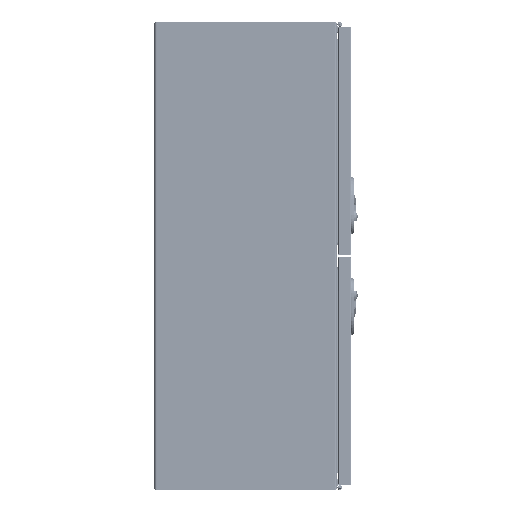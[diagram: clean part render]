
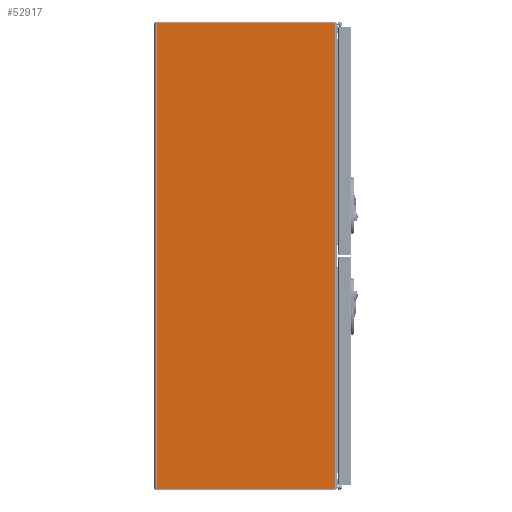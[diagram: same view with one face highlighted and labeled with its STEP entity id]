
A CAD part, front view. The second image highlights one B-rep face of the part: STEP entity #52917.
In plain terms, the highlighted planar face has unit normal (0, -1, 0).
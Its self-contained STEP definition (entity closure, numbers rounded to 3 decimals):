
#2229 = VECTOR ( 'NONE', #83750, 1000. ) ;
#3413 = VERTEX_POINT ( 'NONE', #91252 ) ;
#5574 = CARTESIAN_POINT ( 'NONE',  ( 228., -250., 597. ) ) ;
#6051 = LINE ( 'NONE', #23519, #2229 ) ;
#6109 = CARTESIAN_POINT ( 'NONE',  ( 218., -250., -597. ) ) ;
#6318 = CARTESIAN_POINT ( 'NONE',  ( 213., -250., 597. ) ) ;
#8059 = ORIENTED_EDGE ( 'NONE', *, *, #79141, .T. ) ;
#8681 = VERTEX_POINT ( 'NONE', #26538 ) ;
#8851 = B_SPLINE_CURVE_WITH_KNOTS ( 'NONE', 1,
 ( #101096, #102173 ),
 .UNSPECIFIED., .F., .F.,
 ( 2, 2 ),
 ( 0.688, 1. ),
 .UNSPECIFIED. ) ;
#9587 = ORIENTED_EDGE ( 'NONE', *, *, #24232, .F. ) ;
#10559 = DIRECTION ( 'NONE',  ( 0., 0., 1. ) ) ;
#11873 = VECTOR ( 'NONE', #10559, 1000. ) ;
#12212 = VECTOR ( 'NONE', #60088, 1000. ) ;
#13423 = EDGE_CURVE ( 'NONE', #48728, #54619, #29609, .T. ) ;
#18461 = VECTOR ( 'NONE', #96694, 1000. ) ;
#19052 = CARTESIAN_POINT ( 'NONE',  ( 218., -250., 598.5 ) ) ;
#19904 = VERTEX_POINT ( 'NONE', #66241 ) ;
#23266 = CARTESIAN_POINT ( 'NONE',  ( -228., -250., -597. ) ) ;
#23416 = ORIENTED_EDGE ( 'NONE', *, *, #52918, .F. ) ;
#23519 = CARTESIAN_POINT ( 'NONE',  ( -228., -250., -600. ) ) ;
#23619 = DIRECTION ( 'NONE',  ( 1., 0., 0. ) ) ;
#24165 = EDGE_CURVE ( 'NONE', #73430, #3413, #68060, .T. ) ;
#24232 = EDGE_CURVE ( 'NONE', #105945, #8681, #26938, .T. ) ;
#26229 = AXIS2_PLACEMENT_3D ( 'NONE', #96648, #27446, #87689 ) ;
#26538 = CARTESIAN_POINT ( 'NONE',  ( 218., -250., 597. ) ) ;
#26938 = LINE ( 'NONE', #19052, #18461 ) ;
#27446 = DIRECTION ( 'NONE',  ( 0., -1., 0. ) ) ;
#29609 = LINE ( 'NONE', #63943, #81278 ) ;
#33376 = VERTEX_POINT ( 'NONE', #5574 ) ;
#34796 = LINE ( 'NONE', #43777, #109789 ) ;
#36434 = VERTEX_POINT ( 'NONE', #72622 ) ;
#40188 = CARTESIAN_POINT ( 'NONE',  ( 228., -250., -600. ) ) ;
#42114 = DIRECTION ( 'NONE',  ( 1., 0., 0. ) ) ;
#42296 = EDGE_CURVE ( 'NONE', #91383, #104007, #34796, .T. ) ;
#42638 = EDGE_CURVE ( 'NONE', #103456, #105945, #8851, .T. ) ;
#42895 = EDGE_CURVE ( 'NONE', #36434, #48728, #43371, .T. ) ;
#43371 = LINE ( 'NONE', #86185, #108088 ) ;
#43490 = ORIENTED_EDGE ( 'NONE', *, *, #86320, .F. ) ;
#43777 = CARTESIAN_POINT ( 'NONE',  ( 231., -250., 597. ) ) ;
#44512 = CARTESIAN_POINT ( 'NONE',  ( 231., -250., 597. ) ) ;
#44693 = CARTESIAN_POINT ( 'NONE',  ( 218., -250., 598.5 ) ) ;
#46196 = DIRECTION ( 'NONE',  ( 1., 0., 0. ) ) ;
#47800 = ORIENTED_EDGE ( 'NONE', *, *, #24165, .T. ) ;
#48025 = CARTESIAN_POINT ( 'NONE',  ( 213., -250., -598.5 ) ) ;
#48728 = VERTEX_POINT ( 'NONE', #6109 ) ;
#49524 = VECTOR ( 'NONE', #46196, 1000. ) ;
#49783 = LINE ( 'NONE', #40188, #71178 ) ;
#49874 = CARTESIAN_POINT ( 'NONE',  ( 228., -250., -597. ) ) ;
#50072 = CARTESIAN_POINT ( 'NONE',  ( -234., -250., -597. ) ) ;
#51369 = EDGE_CURVE ( 'NONE', #54619, #33376, #49783, .T. ) ;
#52402 = DIRECTION ( 'NONE',  ( 0., 0., 1. ) ) ;
#52917 = ADVANCED_FACE ( 'NONE', ( #62916 ), #62365, .T. ) ;
#52918 = EDGE_CURVE ( 'NONE', #19904, #3413, #61796, .T. ) ;
#54619 = VERTEX_POINT ( 'NONE', #49874 ) ;
#56494 = CARTESIAN_POINT ( 'NONE',  ( -228., -250., 597. ) ) ;
#60088 = DIRECTION ( 'NONE',  ( 0., 0., -1. ) ) ;
#61157 = CARTESIAN_POINT ( 'NONE',  ( 213., -250., 598.5 ) ) ;
#61796 = LINE ( 'NONE', #96070, #11873 ) ;
#62365 = PLANE ( 'NONE',  #26229 ) ;
#62916 = FACE_OUTER_BOUND ( 'NONE', #96919, .T. ) ;
#63018 = ORIENTED_EDGE ( 'NONE', *, *, #51369, .T. ) ;
#63943 = CARTESIAN_POINT ( 'NONE',  ( -234., -250., -597. ) ) ;
#66241 = CARTESIAN_POINT ( 'NONE',  ( 213., -250., -598.5 ) ) ;
#68060 = LINE ( 'NONE', #50072, #101201 ) ;
#71178 = VECTOR ( 'NONE', #100940, 1000. ) ;
#72622 = CARTESIAN_POINT ( 'NONE',  ( 218., -250., -598.5 ) ) ;
#73430 = VERTEX_POINT ( 'NONE', #23266 ) ;
#74456 = ORIENTED_EDGE ( 'NONE', *, *, #91402, .F. ) ;
#77512 = LINE ( 'NONE', #87079, #12212 ) ;
#78856 = LINE ( 'NONE', #44512, #49524 ) ;
#79141 = EDGE_CURVE ( 'NONE', #103456, #104007, #77512, .T. ) ;
#80533 = B_SPLINE_CURVE_WITH_KNOTS ( 'NONE', 1,
 ( #83429, #48025 ),
 .UNSPECIFIED., .F., .F.,
 ( 2, 2 ),
 ( 0.187, 0.5 ),
 .UNSPECIFIED. ) ;
#81278 = VECTOR ( 'NONE', #98225, 1000. ) ;
#83429 = CARTESIAN_POINT ( 'NONE',  ( 218., -250., -598.5 ) ) ;
#83750 = DIRECTION ( 'NONE',  ( 0., 0., 1. ) ) ;
#86185 = CARTESIAN_POINT ( 'NONE',  ( 218., -250., -598.5 ) ) ;
#86320 = EDGE_CURVE ( 'NONE', #73430, #91383, #6051, .T. ) ;
#86377 = ORIENTED_EDGE ( 'NONE', *, *, #42296, .F. ) ;
#87079 = CARTESIAN_POINT ( 'NONE',  ( 213., -250., 598.5 ) ) ;
#87689 = DIRECTION ( 'NONE',  ( 0., 0., -1. ) ) ;
#91252 = CARTESIAN_POINT ( 'NONE',  ( 213., -250., -597. ) ) ;
#91383 = VERTEX_POINT ( 'NONE', #56494 ) ;
#91402 = EDGE_CURVE ( 'NONE', #36434, #19904, #80533, .T. ) ;
#91539 = EDGE_CURVE ( 'NONE', #8681, #33376, #78856, .T. ) ;
#92330 = ORIENTED_EDGE ( 'NONE', *, *, #42895, .T. ) ;
#92904 = ORIENTED_EDGE ( 'NONE', *, *, #42638, .F. ) ;
#96070 = CARTESIAN_POINT ( 'NONE',  ( 213., -250., -598.5 ) ) ;
#96352 = ORIENTED_EDGE ( 'NONE', *, *, #91539, .F. ) ;
#96648 = CARTESIAN_POINT ( 'NONE',  ( -234., -250., -600. ) ) ;
#96694 = DIRECTION ( 'NONE',  ( 0., 0., -1. ) ) ;
#96919 = EDGE_LOOP ( 'NONE', ( #86377, #43490, #47800, #23416, #74456, #92330, #110386, #63018, #96352, #9587, #92904, #8059 ) ) ;
#98225 = DIRECTION ( 'NONE',  ( 1., 0., 0. ) ) ;
#100940 = DIRECTION ( 'NONE',  ( 0., 0., 1. ) ) ;
#101096 = CARTESIAN_POINT ( 'NONE',  ( 213., -250., 598.5 ) ) ;
#101201 = VECTOR ( 'NONE', #23619, 1000. ) ;
#102173 = CARTESIAN_POINT ( 'NONE',  ( 218., -250., 598.5 ) ) ;
#103456 = VERTEX_POINT ( 'NONE', #61157 ) ;
#104007 = VERTEX_POINT ( 'NONE', #6318 ) ;
#105945 = VERTEX_POINT ( 'NONE', #44693 ) ;
#108088 = VECTOR ( 'NONE', #52402, 1000. ) ;
#109789 = VECTOR ( 'NONE', #42114, 1000. ) ;
#110386 = ORIENTED_EDGE ( 'NONE', *, *, #13423, .T. ) ;
